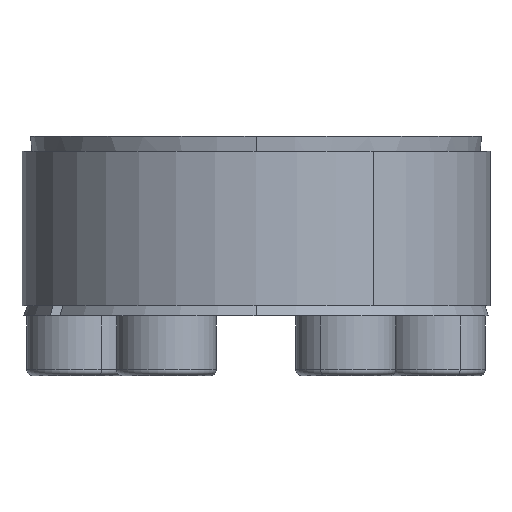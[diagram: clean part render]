
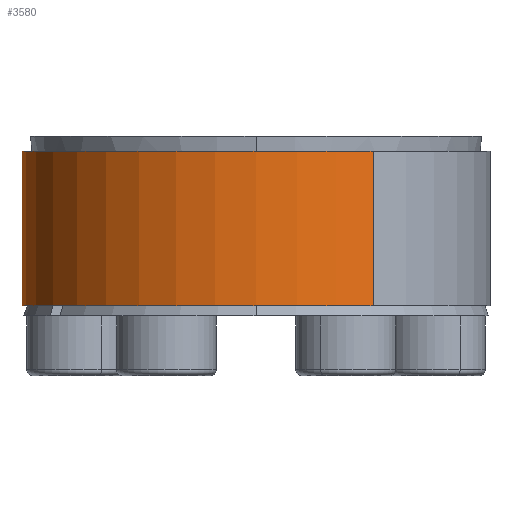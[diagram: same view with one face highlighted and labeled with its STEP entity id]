
A CAD part, left-side view. The second image highlights one B-rep face of the part: STEP entity #3580.
In plain terms, the highlighted cylindrical face has radius 23.49 mm (diameter 46.98 mm), a partial arc.
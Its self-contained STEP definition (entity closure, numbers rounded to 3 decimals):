
#42 = VECTOR ( 'NONE', #532, 1000. ) ;
#158 = FACE_OUTER_BOUND ( 'NONE', #9665, .T. ) ;
#532 = DIRECTION ( 'NONE',  ( 0., 0., -1. ) ) ;
#871 = CARTESIAN_POINT ( 'NONE',  ( 0., 0., 1.027 ) ) ;
#896 = CARTESIAN_POINT ( 'NONE',  ( -20.343, -11.745, 16.527 ) ) ;
#1224 = DIRECTION ( 'NONE',  ( 0., 0., -1. ) ) ;
#1261 = DIRECTION ( 'NONE',  ( 0.866, 0.5, 0. ) ) ;
#1646 = DIRECTION ( 'NONE',  ( -0.866, -0.5, 0. ) ) ;
#1914 = CARTESIAN_POINT ( 'NONE',  ( 0., 0., 16.527 ) ) ;
#2358 = ORIENTED_EDGE ( 'NONE', *, *, #9368, .T. ) ;
#2487 = VERTEX_POINT ( 'NONE', #3809 ) ;
#2674 = DIRECTION ( 'NONE',  ( -0.866, -0.5, 0. ) ) ;
#2850 = VERTEX_POINT ( 'NONE', #896 ) ;
#2931 = ORIENTED_EDGE ( 'NONE', *, *, #7239, .T. ) ;
#3104 = VECTOR ( 'NONE', #9739, 1000. ) ;
#3340 = LINE ( 'NONE', #5244, #3104 ) ;
#3559 = AXIS2_PLACEMENT_3D ( 'NONE', #8004, #1224, #1261 ) ;
#3580 = ADVANCED_FACE ( 'NONE', ( #158 ), #5236, .T. ) ;
#3809 = CARTESIAN_POINT ( 'NONE',  ( -20.343, -11.745, 1.027 ) ) ;
#4177 = ORIENTED_EDGE ( 'NONE', *, *, #6790, .F. ) ;
#4721 = AXIS2_PLACEMENT_3D ( 'NONE', #1914, #7174, #2674 ) ;
#5070 = CARTESIAN_POINT ( 'NONE',  ( -20.343, -11.745, 16.527 ) ) ;
#5236 = CYLINDRICAL_SURFACE ( 'NONE', #3559, 23.49 ) ;
#5244 = CARTESIAN_POINT ( 'NONE',  ( 20.343, 11.745, 16.527 ) ) ;
#5548 = VERTEX_POINT ( 'NONE', #6521 ) ;
#5692 = CIRCLE ( 'NONE', #4721, 23.49 ) ;
#5913 = VERTEX_POINT ( 'NONE', #8837 ) ;
#6146 = DIRECTION ( 'NONE',  ( 0., 0., 1. ) ) ;
#6521 = CARTESIAN_POINT ( 'NONE',  ( 20.343, 11.745, 16.527 ) ) ;
#6545 = EDGE_CURVE ( 'NONE', #2850, #2487, #8054, .T. ) ;
#6790 = EDGE_CURVE ( 'NONE', #5548, #2850, #5692, .T. ) ;
#7174 = DIRECTION ( 'NONE',  ( 0., 0., 1. ) ) ;
#7239 = EDGE_CURVE ( 'NONE', #5913, #2487, #8839, .T. ) ;
#7556 = AXIS2_PLACEMENT_3D ( 'NONE', #871, #6146, #1646 ) ;
#8004 = CARTESIAN_POINT ( 'NONE',  ( 0., 0., 16.527 ) ) ;
#8054 = LINE ( 'NONE', #5070, #42 ) ;
#8549 = ORIENTED_EDGE ( 'NONE', *, *, #6545, .F. ) ;
#8837 = CARTESIAN_POINT ( 'NONE',  ( 20.343, 11.745, 1.027 ) ) ;
#8839 = CIRCLE ( 'NONE', #7556, 23.49 ) ;
#9368 = EDGE_CURVE ( 'NONE', #5548, #5913, #3340, .T. ) ;
#9665 = EDGE_LOOP ( 'NONE', ( #8549, #4177, #2358, #2931 ) ) ;
#9739 = DIRECTION ( 'NONE',  ( 0., 0., -1. ) ) ;
